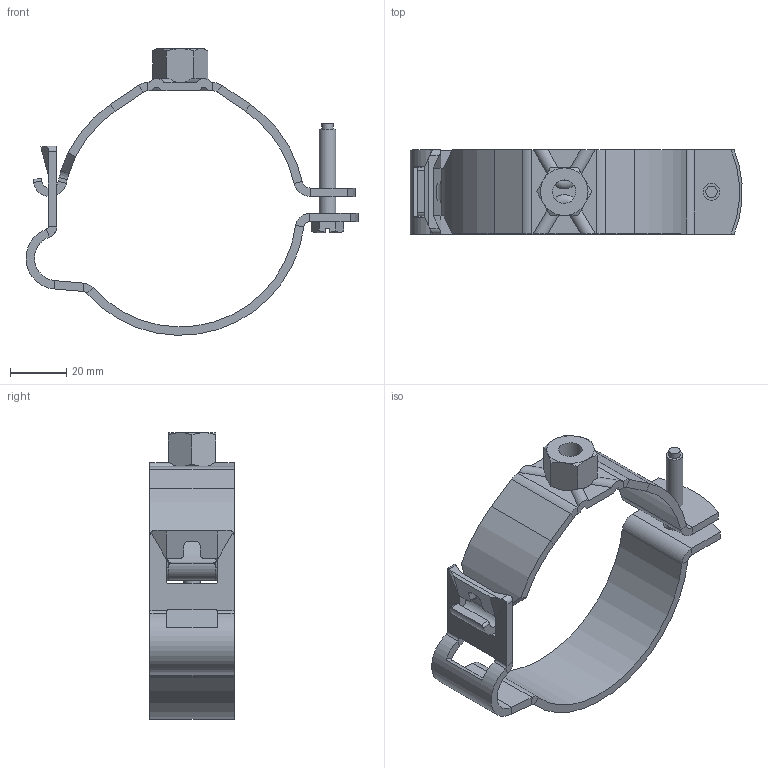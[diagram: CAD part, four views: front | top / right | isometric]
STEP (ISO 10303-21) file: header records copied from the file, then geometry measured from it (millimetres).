
FILE_DESCRIPTION(/* description */ (''),/* implementation_level */ '2;1');
FILE_NAME(/* name */ 'C:\Planerdaten\Export PLA\365.843.00.2\stp\365843.stp',/* time_stamp */ '2020-02-28T04:57:26-08:00',/* author */ ('JANAN'),/* organization */ (''),/* preprocessor_version */ 'ST-DEVELOPER v16.13',/* originating_system */ 'Autodesk Inventor 2018',/* authorisation */ '');
FILE_SCHEMA (('AUTOMOTIVE_DESIGN { 1 0 10303 214 3 1 1 }'));
Length unit declared in the file: millimetre
Products named in the file (4): Rohrschelle d75/83 M10 verstellbar; 38098950_CPP_000_00___Rohrschelle UnT St d75 verz; 30055004_CPP_000_01___Rohrschelle ObT St d75 M10 verz; 30054957_CPP_000_01___Sechskantschraube M6x35-4.8 verzinkt
Assembly tree (3 placements, depth 2):
  Rohrschelle d75/83 M10 verstellbar
    38098950_CPP_000_00___Rohrschelle UnT St d75 verz
    30055004_CPP_000_01___Rohrschelle ObT St d75 M10 verz
    30054957_CPP_000_01___Sechskantschraube M6x35-4.8 verzinkt
Bounding box: 118.37 x 30 x 102.18 mm (x, y, z)
Volume: 32324.4 mm3; surface area: 24159.1 mm2
Topology: 3 solids, 3 shells, 218 faces, 539 edges, 326 vertices
Faces by surface type: plane 136, cylinder 50, cone 22, bspline 8, torus 2
Full cylindrical faces by diameter (mm): 4 x1, 4.917 x1, 6 x1, 8.376 x1
Entity records: 6866 total; most frequent: CARTESIAN_POINT 1653, ORIENTED_EDGE 1068, DIRECTION 1063, EDGE_CURVE 534, AXIS2_PLACEMENT_3D 370, VERTEX_POINT 325, LINE 323, VECTOR 323
